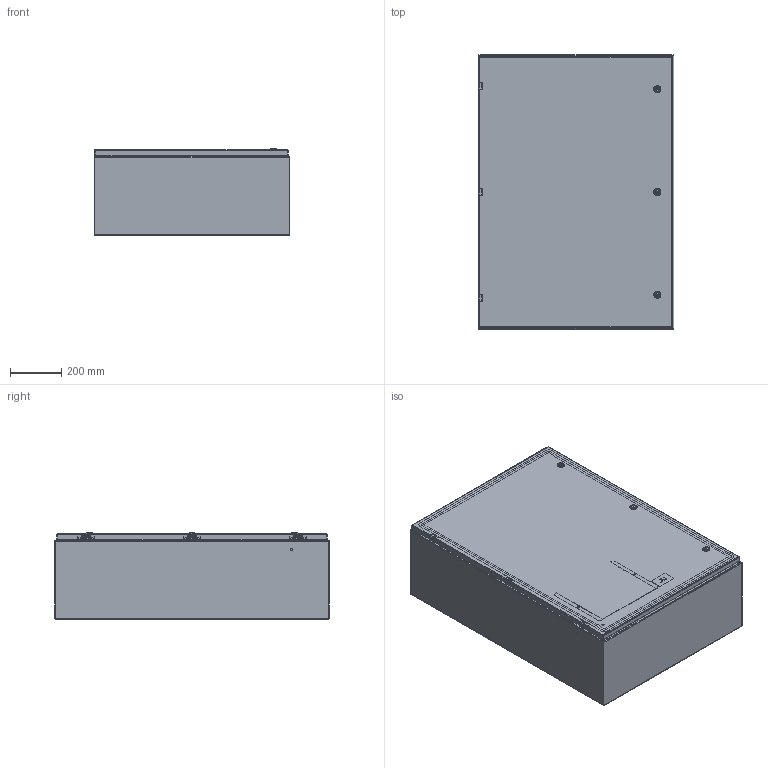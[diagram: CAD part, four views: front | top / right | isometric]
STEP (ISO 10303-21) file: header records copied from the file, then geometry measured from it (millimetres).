
FILE_DESCRIPTION((''),'2;1');
FILE_NAME('MODEL-306_ASM','2026-04-08T11:56:09',('johnh'),('SAGINAW CONTROL & ENGINEERING'),'CREO PARAMETRIC BY PTC INC, 2021284','CREO PARAMETRIC BY PTC INC, 2021284','');
FILE_SCHEMA(('AUTOMOTIVE_DESIGN { 1 0 10303 214 1 1 1 1 }'));
Length unit declared in the file: inch
Products named in the file (30): MODEL-306-BDY; MODEL-306-TP; MODEL-306-BTM; MODEL-306-DR; 100837; 100882; 111267; 125597; 100794_SHAFT; 100794_INSERT; 100794_CAM; 100794_NUT; 100794_SCREW; 100794_ASM; MODEL-306-DOOR-GASKET; 126392; 126392_ASM; 126395; 102483; 101226; 101389; 102140; 132757; MODEL-306-DOOR-ASSY_ASM; 101653; 122192; SUBPANEL; 100904; SUBPANEL-SUBASSEMBLY_ASM; MODEL-306_ASM
Assembly tree (65 placements, depth 4):
  MODEL-306_ASM
    MODEL-306-BDY
    MODEL-306-TP
    MODEL-306-BTM
    MODEL-306-DOOR-ASSY_ASM
      MODEL-306-DR
      100837  x3
      100882  x2
      111267
      125597
      100794_ASM  x3
        100794_SHAFT
        100794_INSERT
        100794_CAM
        100794_NUT
        100794_SCREW
      MODEL-306-DOOR-GASKET
      126392_ASM  x3
        126392
      126395  x3
      102483  x9
      101226  x3
      101389  x3
      102140  x3
      132757  x3
    100837
    101653  x6
    122192
    SUBPANEL-SUBASSEMBLY_ASM
      SUBPANEL
      100904  x6
Bounding box: 762 x 1066.8 x 335.93 mm (x, y, z)
Volume: 8686580.5 mm3; surface area: 7824989.5 mm2
Topology: 71 solids, 71 shells, 4145 faces, 10503 edges, 6598 vertices
Faces by surface type: plane 1896, cylinder 1178, bspline 504, torus 307, cone 180, sphere 80
Entity records: 90322 total; most frequent: CARTESIAN_POINT 24757, ORIENTED_EDGE 9448, DIRECTION 8988, PRESENTATION_STYLE_ASSIGNMENT 4925, EDGE_CURVE 4724, STYLED_ITEM 4648, CURVE_STYLE 4562, AXIS2_PLACEMENT_3D 3249
